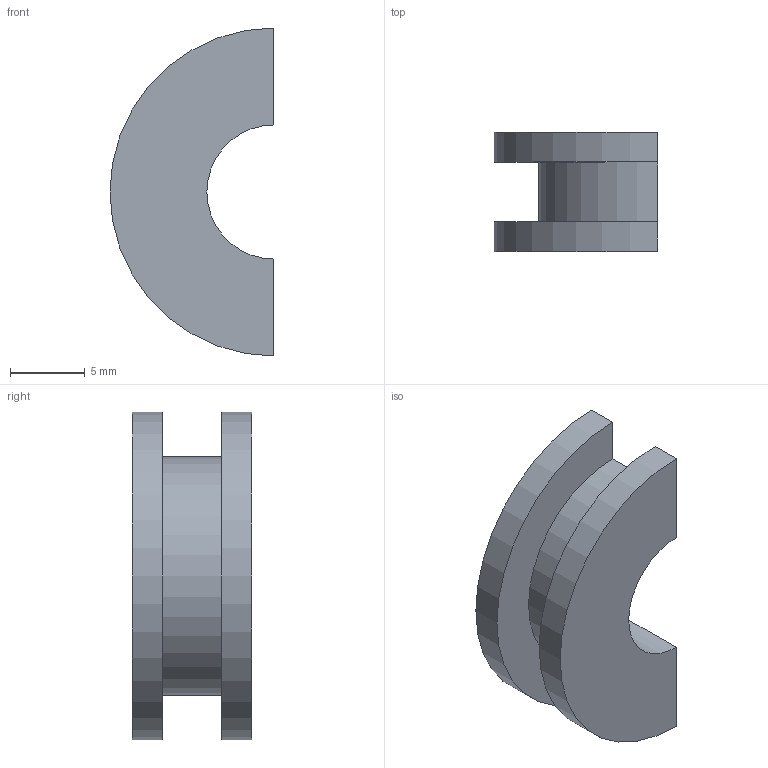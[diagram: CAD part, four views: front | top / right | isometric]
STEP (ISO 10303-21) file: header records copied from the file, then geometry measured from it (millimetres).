
FILE_DESCRIPTION(('FreeCAD Model'),'2;1');
FILE_NAME('Open CASCADE Shape Model','2026-10-19T19:41:49',('FreeCAD'),( 'FreeCAD'),'Open CASCADE STEP processor 7.8','FreeCAD','Unknown');
FILE_SCHEMA(('AUTOMOTIVE_DESIGN { 1 0 10303 214 1 1 1 1 }'));
Length unit declared in the file: millimetre
Products named in the file (1): Open CASCADE STEP translator 7.8 18
Bounding box: 11 x 8 x 22 mm (x, y, z)
Volume: 907.9 mm3; surface area: 927.4 mm2
Topology: 1 solids, 1 shells, 10 faces, 24 edges, 16 vertices
Faces by surface type: plane 6, cylinder 4
Entity records: 305 total; most frequent: DIRECTION 53, CARTESIAN_POINT 52, ORIENTED_EDGE 48, EDGE_CURVE 24, AXIS2_PLACEMENT_3D 19, VERTEX_POINT 16, LINE 15, VECTOR 15
